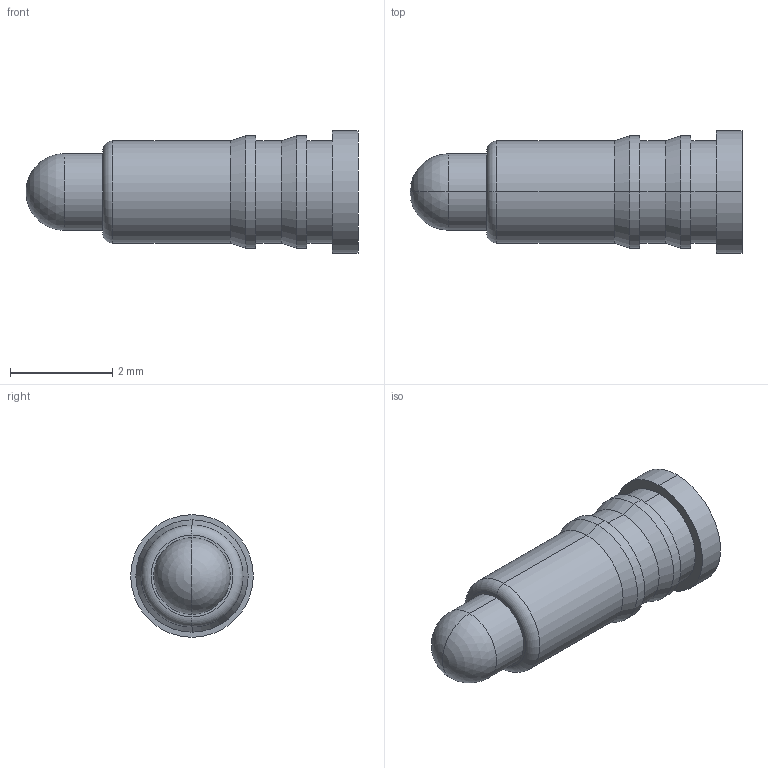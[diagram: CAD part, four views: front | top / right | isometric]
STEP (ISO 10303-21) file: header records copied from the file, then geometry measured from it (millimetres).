
FILE_DESCRIPTION((''),'2;1');
FILE_NAME('NC3691-01PB','2022-07-07T15:39:09',('Administrator'),(''),'CREO PARAMETRIC BY PTC INC, 2018400','CREO PARAMETRIC BY PTC INC, 2018400','');
FILE_SCHEMA(('CONFIG_CONTROL_DESIGN'));
Length unit declared in the file: millimetre
Products named in the file (1): NC3691-01PB
Bounding box: 6.5 x 2.4 x 2.4 mm (x, y, z)
Volume: 19 mm3; surface area: 47.8 mm2
Topology: 1 solids, 1 shells, 27 faces, 54 edges, 31 vertices
Faces by surface type: cylinder 14, plane 5, cone 4, sphere 2, torus 2
Entity records: 730 total; most frequent: DIRECTION 140, CARTESIAN_POINT 110, ORIENTED_EDGE 104, AXIS2_PLACEMENT_3D 61, EDGE_CURVE 52, CIRCLE 34, VERTEX_POINT 31, EDGE_LOOP 31
